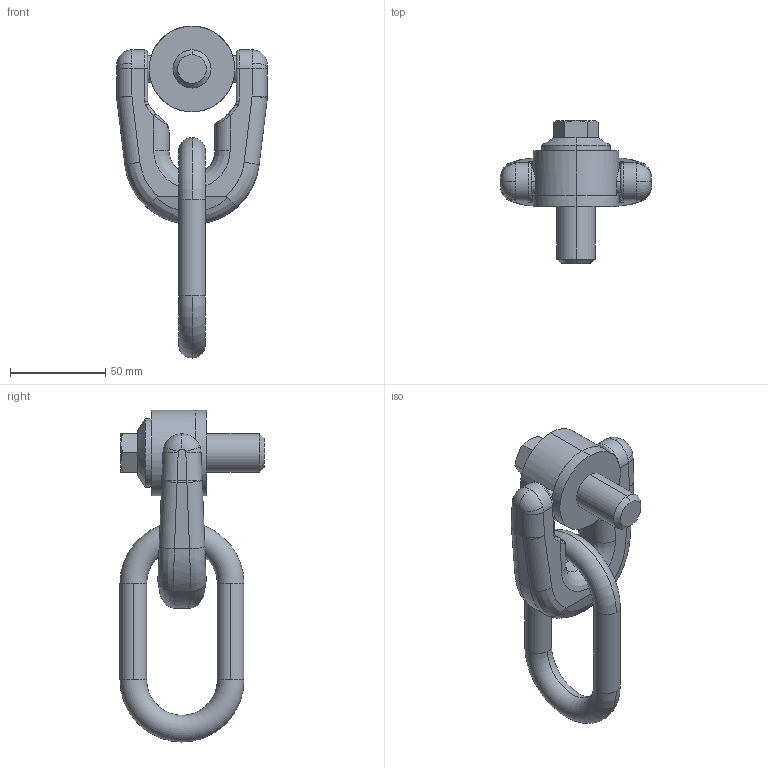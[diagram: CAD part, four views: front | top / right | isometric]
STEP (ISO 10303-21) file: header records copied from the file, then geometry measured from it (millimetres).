
FILE_DESCRIPTION (( 'STEP AP203' ), '1' );
FILE_NAME ('63150.W0020.step', '2013-12-13T11:51:56', ( 'User' ), ( '' ), 'SwSTEP 2.0', 'SolidWorks 2009', '' );
FILE_SCHEMA (( 'CONFIG_CONTROL_DESIGN' ));
Length unit declared in the file: millimetre
Products named in the file (4): 63150.W0020; Part1_63150.W0020; Part2B; Part3_63150.W0020
Assembly tree (3 placements, depth 2):
  63150.W0020
    Part1_63150.W0020
    Part3_63150.W0020
    Part2B
Bounding box: 79 x 75.5 x 174 mm (x, y, z)
Volume: 182584.7 mm3; surface area: 39202.8 mm2
Topology: 3 solids, 3 shells, 133 faces, 317 edges, 190 vertices
Faces by surface type: cylinder 41, plane 33, bspline 33, torus 12, cone 10, sphere 4
Entity records: 5940 total; most frequent: CARTESIAN_POINT 2688, ORIENTED_EDGE 630, DIRECTION 574, EDGE_CURVE 315, AXIS2_PLACEMENT_3D 233, VERTEX_POINT 190, EDGE_LOOP 139, ADVANCED_FACE 133
